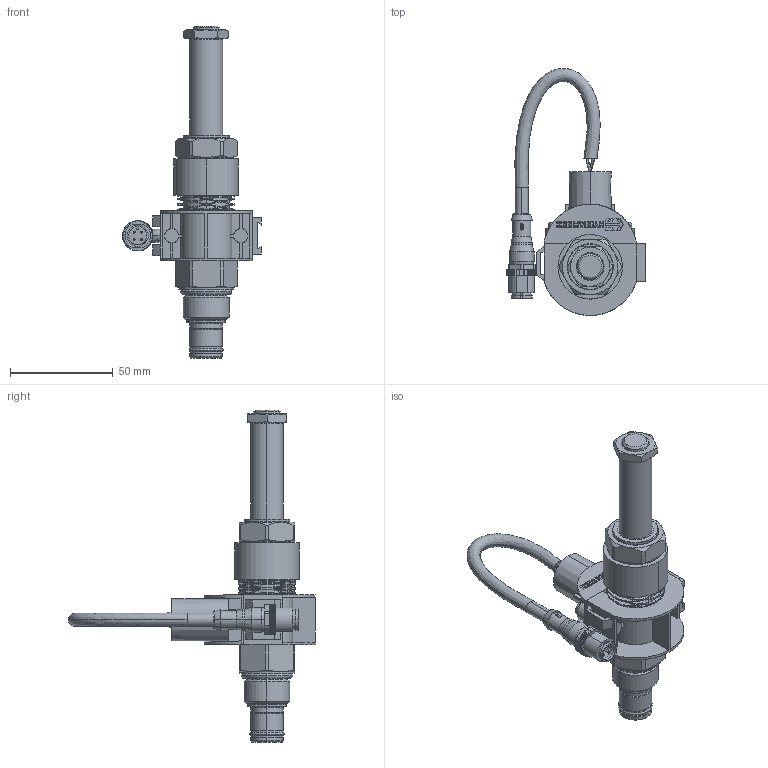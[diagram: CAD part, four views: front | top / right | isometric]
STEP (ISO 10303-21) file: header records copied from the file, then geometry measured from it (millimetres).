
FILE_DESCRIPTION((''),'2;1');
FILE_NAME('ASM0001_ASM','2021-06-23T15:13:00',('AB7'),(''),'CREO PARAMETRIC BY PTC INC, 2018020','CREO PARAMETRIC BY PTC INC, 2018020','');
FILE_SCHEMA(('CONFIG_CONTROL_DESIGN'));
Products named in the file (4): PRT0003; NUT_4553800; M12_SENSOR_ASSEMBLY; ASM0001_ASM
Assembly tree (3 placements, depth 2):
  ASM0001_ASM
    PRT0003
    NUT_4553800
    M12_SENSOR_ASSEMBLY
Bounding box: 67.48 x 119.93 x 161.26 mm (x, y, z)
Volume: 93773.5 mm3; surface area: 40298.8 mm2
Topology: 3 solids, 3 shells, 1063 faces, 2962 edges, 1923 vertices
Faces by surface type: plane 500, cylinder 307, cone 84, bspline 78, extrusion 64, torus 30
Entity records: 43754 total; most frequent: CARTESIAN_POINT 17523, ORIENTED_EDGE 5916, DIRECTION 4707, EDGE_CURVE 2958, VERTEX_POINT 1923, VECTOR 1691, LINE 1627, AXIS2_PLACEMENT_3D 1508
